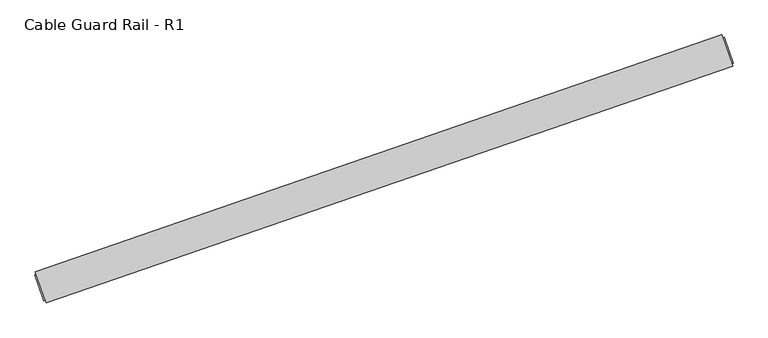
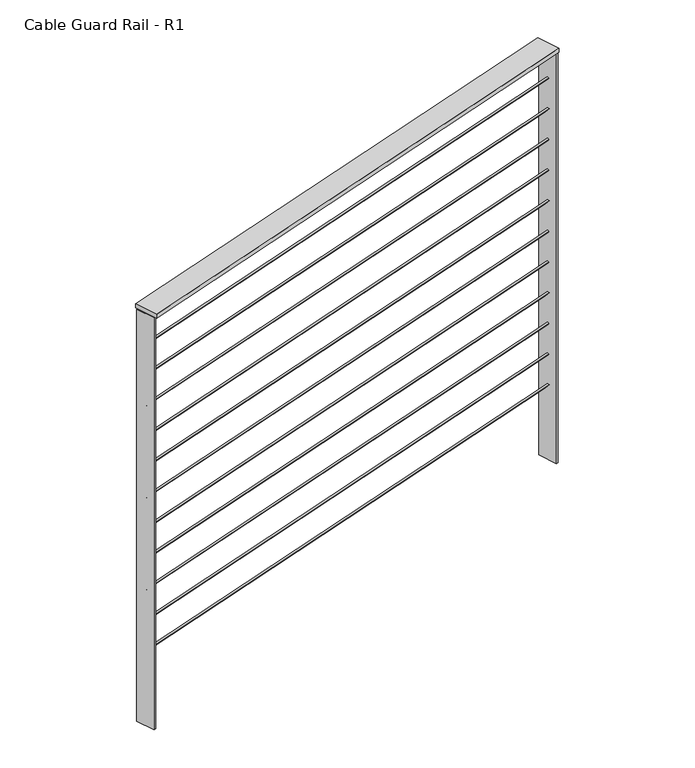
"""IFC4 building model written with IfcOpenShell, lengths in millimetres: railing geometry, Cable Guard Rail - R1."""

from ifc_helpers import new_model, si_unit, point, frame, origin, origin_2d, place, context, project, spatial, polyline, circle_curve, trimmed, segment, composite_curve, outline, extrude, source, transform, mapped, element, save


def cable_guard_rail_r1_b3929646(model_context):
    return source(origin(), model_context, "Body", "SweptSolid", [
        extrude(outline(polyline([(48239.9262686, 186173.6472003), (48215.0513076, 186245.6727258), (49791.5760775, 186790.1462565), (49816.4510385, 186718.120731), (48239.9262686, 186173.6472003)])), frame((0.0, 0.0, 294906.7), z_axis=(0.0, 0.0, 1.0), x_axis=(1.0, 0.0, 0.0)), (0.0, 0.0, 1.0), 12.7),
        extrude(outline(composite_curve([segment(trimmed(circle_curve(origin_2d(), 3.175), [point((-3.175, 0.0))], [point((3.1749999, 0.0))], False, "CARTESIAN"), True, "CONTINUOUS"), segment(trimmed(circle_curve(origin_2d(), 3.175), [point((3.1749999, 0.0))], [point((-3.175, 0.0))], False, "CARTESIAN"), True, "CONTINUOUS")], self_intersect=False)), frame((48227.4887881, 186209.659963, 294805.1), z_axis=(0.9452168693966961, 0.32644305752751, 0.0), x_axis=(0.32644305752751, -0.9452168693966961, 0.0)), (0.0, 0.0, 1.0), 1667.8974116),
        extrude(outline(composite_curve([segment(trimmed(circle_curve(origin_2d(), 3.175), [point((-3.175, 0.0))], [point((3.1749999, 0.0))], False, "CARTESIAN"), True, "CONTINUOUS"), segment(trimmed(circle_curve(origin_2d(), 3.175), [point((3.1749999, 0.0))], [point((-3.175, 0.0))], False, "CARTESIAN"), True, "CONTINUOUS")], self_intersect=False)), frame((48227.4887881, 186209.659963, 294703.5), z_axis=(0.9452168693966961, 0.32644305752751, 0.0), x_axis=(0.32644305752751, -0.9452168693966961, 0.0)), (0.0, 0.0, 1.0), 1667.8974116),
        extrude(outline(composite_curve([segment(trimmed(circle_curve(origin_2d(), 3.175), [point((-3.175, 0.0))], [point((3.1749999, 0.0))], False, "CARTESIAN"), True, "CONTINUOUS"), segment(trimmed(circle_curve(origin_2d(), 3.175), [point((3.1749999, 0.0))], [point((-3.175, 0.0))], False, "CARTESIAN"), True, "CONTINUOUS")], self_intersect=False)), frame((48227.4887881, 186209.659963, 294601.9), z_axis=(0.9452168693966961, 0.32644305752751, 0.0), x_axis=(0.32644305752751, -0.9452168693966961, 0.0)), (0.0, 0.0, 1.0), 1667.8974116),
        extrude(outline(composite_curve([segment(trimmed(circle_curve(origin_2d(), 3.175), [point((-3.175, 0.0))], [point((3.1749999, 0.0))], False, "CARTESIAN"), True, "CONTINUOUS"), segment(trimmed(circle_curve(origin_2d(), 3.175), [point((3.1749999, 0.0))], [point((-3.175, 0.0))], False, "CARTESIAN"), True, "CONTINUOUS")], self_intersect=False)), frame((48227.4887881, 186209.659963, 294500.3), z_axis=(0.9452168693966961, 0.32644305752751, 0.0), x_axis=(0.32644305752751, -0.9452168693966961, 0.0)), (0.0, 0.0, 1.0), 1667.8974116),
        extrude(outline(composite_curve([segment(trimmed(circle_curve(origin_2d(), 3.175), [point((-3.175, 0.0))], [point((3.1749999, 0.0))], False, "CARTESIAN"), True, "CONTINUOUS"), segment(trimmed(circle_curve(origin_2d(), 3.175), [point((3.1749999, 0.0))], [point((-3.175, 0.0))], False, "CARTESIAN"), True, "CONTINUOUS")], self_intersect=False)), frame((48227.4887881, 186209.659963, 294398.7), z_axis=(0.9452168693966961, 0.32644305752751, 0.0), x_axis=(0.32644305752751, -0.9452168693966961, 0.0)), (0.0, 0.0, 1.0), 1667.8974116),
        extrude(outline(composite_curve([segment(trimmed(circle_curve(origin_2d(), 3.175), [point((-3.175, 0.0))], [point((3.1749999, 0.0))], False, "CARTESIAN"), True, "CONTINUOUS"), segment(trimmed(circle_curve(origin_2d(), 3.175), [point((3.1749999, 0.0))], [point((-3.175, 0.0))], False, "CARTESIAN"), True, "CONTINUOUS")], self_intersect=False)), frame((48227.4887881, 186209.659963, 294297.1), z_axis=(0.9452168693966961, 0.32644305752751, 0.0), x_axis=(0.32644305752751, -0.9452168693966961, 0.0)), (0.0, 0.0, 1.0), 1667.8974116),
        extrude(outline(composite_curve([segment(trimmed(circle_curve(origin_2d(), 3.175), [point((-3.175, 0.0))], [point((3.1749999, 0.0))], False, "CARTESIAN"), True, "CONTINUOUS"), segment(trimmed(circle_curve(origin_2d(), 3.175), [point((3.1749999, 0.0))], [point((-3.175, 0.0))], False, "CARTESIAN"), True, "CONTINUOUS")], self_intersect=False)), frame((48227.4887881, 186209.659963, 294195.5), z_axis=(0.9452168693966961, 0.32644305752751, 0.0), x_axis=(0.32644305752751, -0.9452168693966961, 0.0)), (0.0, 0.0, 1.0), 1667.8974116),
        extrude(outline(composite_curve([segment(trimmed(circle_curve(origin_2d(), 3.175), [point((-3.175, 0.0))], [point((3.1749999, 0.0))], False, "CARTESIAN"), True, "CONTINUOUS"), segment(trimmed(circle_curve(origin_2d(), 3.175), [point((3.1749999, 0.0))], [point((-3.175, 0.0))], False, "CARTESIAN"), True, "CONTINUOUS")], self_intersect=False)), frame((48227.4887881, 186209.659963, 294093.9), z_axis=(0.9452168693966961, 0.32644305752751, 0.0), x_axis=(0.32644305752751, -0.9452168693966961, 0.0)), (0.0, 0.0, 1.0), 1667.8974116),
        extrude(outline(composite_curve([segment(trimmed(circle_curve(origin_2d(), 3.175), [point((-3.175, 0.0))], [point((3.1749999, 0.0))], False, "CARTESIAN"), True, "CONTINUOUS"), segment(trimmed(circle_curve(origin_2d(), 3.175), [point((3.1749999, 0.0))], [point((-3.175, 0.0))], False, "CARTESIAN"), True, "CONTINUOUS")], self_intersect=False)), frame((48227.4887881, 186209.659963, 293992.3), z_axis=(0.9452168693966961, 0.32644305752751, 0.0), x_axis=(0.32644305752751, -0.9452168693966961, 0.0)), (0.0, 0.0, 1.0), 1667.8974116),
        extrude(outline(composite_curve([segment(trimmed(circle_curve(origin_2d(), 3.175), [point((-3.175, 0.0))], [point((3.1749999, 0.0))], False, "CARTESIAN"), True, "CONTINUOUS"), segment(trimmed(circle_curve(origin_2d(), 3.175), [point((3.1749999, 0.0))], [point((-3.175, 0.0))], False, "CARTESIAN"), True, "CONTINUOUS")], self_intersect=False)), frame((48227.4887881, 186209.659963, 293890.7), z_axis=(0.9452168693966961, 0.32644305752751, 0.0), x_axis=(0.32644305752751, -0.9452168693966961, 0.0)), (0.0, 0.0, 1.0), 1667.8974116),
        extrude(outline(composite_curve([segment(trimmed(circle_curve(origin_2d(), 3.175), [point((-3.175, 0.0))], [point((3.1749999, 0.0))], False, "CARTESIAN"), True, "CONTINUOUS"), segment(trimmed(circle_curve(origin_2d(), 3.175), [point((3.1749999, 0.0))], [point((-3.175, 0.0))], False, "CARTESIAN"), True, "CONTINUOUS")], self_intersect=False)), frame((48227.4887881, 186209.659963, 293789.1), z_axis=(0.9452168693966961, 0.32644305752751, 0.0), x_axis=(0.32644305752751, -0.9452168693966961, 0.0)), (0.0, 0.0, 1.0), 1667.8974116),
        extrude(outline(polyline([(49790.6479273, 186783.1076726), (49796.6500545, 186785.180586), (49817.3791886, 186725.1593148), (49811.3770615, 186723.0864014), (49790.6479273, 186783.1076726)])), frame((0.0, 0.0, 293541.45), z_axis=(0.0, 0.0, 1.0), x_axis=(1.0, 0.0, 0.0)), (0.0, 0.0, 1.0), 1365.25),
        extrude(outline(polyline([(48214.1231574, 186238.6341419), (48220.1252845, 186240.7070553), (48240.8544187, 186180.6857841), (48234.8522916, 186178.6128707), (48214.1231574, 186238.6341419)])), frame((0.0, 0.0, 293541.45), z_axis=(0.0, 0.0, 1.0), x_axis=(1.0, 0.0, 0.0)), (0.0, 0.0, 1.0), 1365.25),
    ])


if __name__ == "__main__":
    model = new_model("IFC4")
    model_context = context("Model", 3, world=origin())
    ifc_project = project(units=[si_unit("LENGTHUNIT", "METRE", prefix="MILLI")], contexts=[model_context])
    site = spatial("IfcSite", under=ifc_project)
    building = spatial("IfcBuilding", under=site)
    placement = place(None, origin())
    cable_guard_rail_r1_shape = cable_guard_rail_r1_b3929646(model_context)
    element("IfcRailing", 1, ObjectType="Cable Guard Rail - R1", at=placement, inside=building, context=model_context, shape_type="MappedRepresentation", body=[
        mapped(cable_guard_rail_r1_shape, transform((0.0, 0.0, 0.0), x_axis=(1.0, 0.0, 0.0), y_axis=(0.0, 1.0, 0.0), z_axis=(0.0, 0.0, 1.0))),
    ])
    save(model, "model.ifc")
